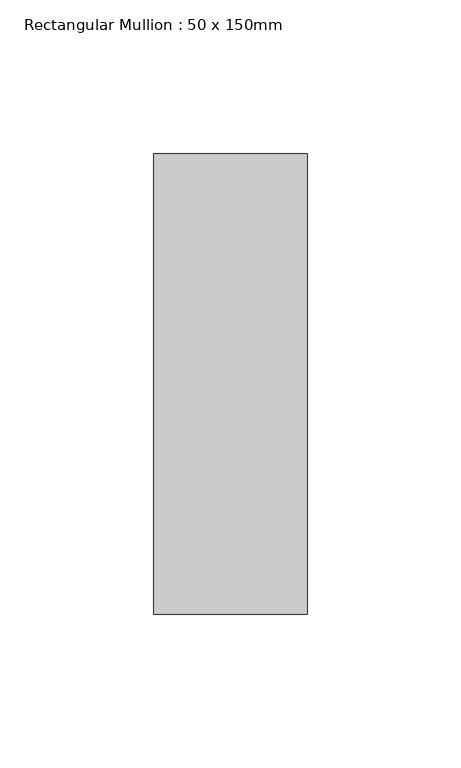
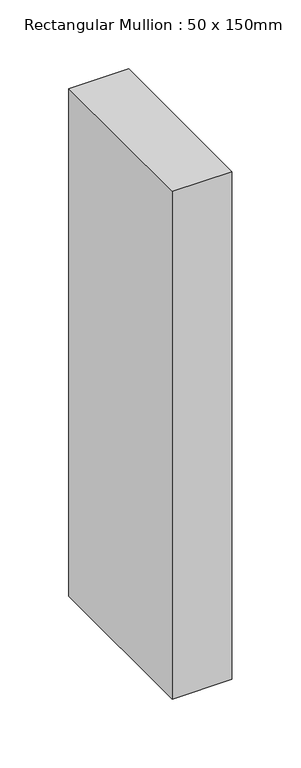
"""IFC4 building model written with IfcOpenShell, lengths in millimetres: member geometry, Rectangular Mullion : 50 x 150mm."""

from ifc_helpers import new_model, si_unit, frame, origin, place, context, project, spatial, polyline, outline, extrude, source, transform, mapped, element, save


def rectangular_mullion_50_x_150mm_0a8c3443(model_context):
    return source(origin(), model_context, "Body", "SweptSolid", [
        extrude(outline(polyline([(0.0, 75.0), (0.0, -75.0), (-50.0, -75.0), (-50.0, 75.0), (0.0, 75.0)])), frame((0.0, 0.0, -450.0), z_axis=(0.0, 0.0, 1.0), x_axis=(1.0, 0.0, 0.0)), (0.0, 0.0, 1.0), 450.0),
    ])


if __name__ == "__main__":
    model = new_model("IFC4")
    model_context = context("Model", 3, world=origin())
    ifc_project = project(units=[si_unit("LENGTHUNIT", "METRE", prefix="MILLI")], contexts=[model_context])
    site = spatial("IfcSite", under=ifc_project)
    building = spatial("IfcBuilding", under=site)
    placement = place(None, origin())
    rectangular_mullion_50_x_150mm_shape = rectangular_mullion_50_x_150mm_0a8c3443(model_context)
    element("IfcMember", 1, ObjectType="Rectangular Mullion : 50 x 150mm", at=placement, inside=building, context=model_context, shape_type="MappedRepresentation", body=[
        mapped(rectangular_mullion_50_x_150mm_shape, transform((0.0, 0.0, 0.0), x_axis=(1.0, 0.0, 0.0), y_axis=(0.0, 1.0, 0.0), z_axis=(0.0, 0.0, 1.0))),
    ])
    save(model, "model.ifc")
